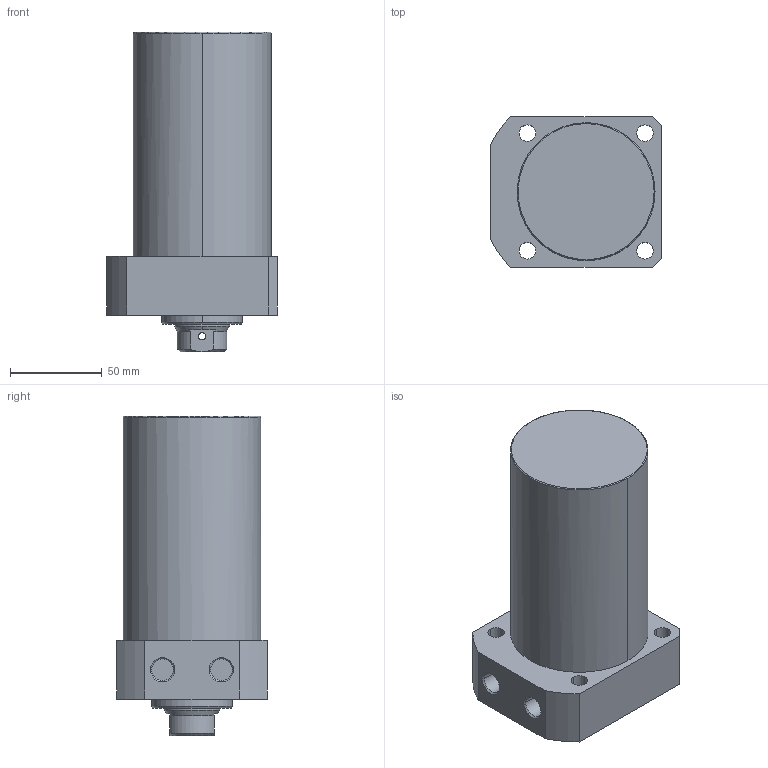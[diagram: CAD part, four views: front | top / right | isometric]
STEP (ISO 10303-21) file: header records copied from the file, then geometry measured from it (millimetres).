
FILE_DESCRIPTION((' '),'2;1');
FILE_NAME( 'TLLR-075CB-085.STEP.stp', '2025-10-24T16:35:08', (' '), ('--- Datakit www.datakit.com---'), ' Datakit CrossCadWare V2024.1 Dec 21 2023', 'Mastercam 2025', ' ');
FILE_SCHEMA(('AUTOMOTIVE_DESIGN { 1 0 10303 214 1 1 1 1 }'));
Length unit declared in the file: millimetre
Products named in the file (1): TLLR-075CB-085
Bounding box: 93 x 82 x 174 mm (x, y, z)
Volume: 773952.2 mm3; surface area: 62485.6 mm2
Topology: 1 solids, 1 shells, 67 faces, 197 edges, 136 vertices
Faces by surface type: cylinder 32, plane 19, cone 14, torus 2
Entity records: 3386 total; most frequent: CARTESIAN_POINT 1467, DIRECTION 426, ORIENTED_EDGE 390, EDGE_CURVE 195, AXIS2_PLACEMENT_3D 179, VERTEX_POINT 136, CIRCLE 111, EDGE_LOOP 85
